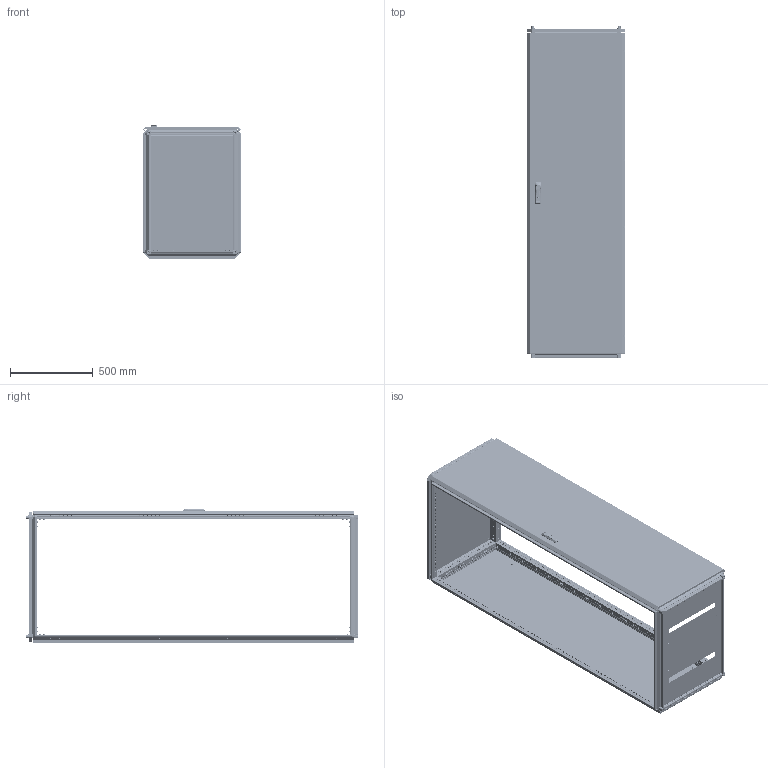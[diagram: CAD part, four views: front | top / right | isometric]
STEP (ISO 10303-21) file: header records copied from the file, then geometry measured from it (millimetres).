
FILE_DESCRIPTION (( 'STEP AP203' ), '1' );
FILE_NAME ('MA1.000.060820.10.00 AleSta2068 Øêàô AleSta 600õ800õ2000.STEP', '2024-08-23T08:26:22', ( '' ), ( '' ), 'SwSTEP 2.0', 'SolidWorks 2021', '' );
FILE_SCHEMA (( 'CONFIG_CONTROL_DESIGN' ));
Length unit declared in the file: millimetre
Products named in the file (51): Âèíò ñ âí. øåñòèãðàííèêîì M12 DIN912_•30; Óïëîòíèòåëü ïàíåëè íèæíåé_¯® ¢ëá®â¥ 600å2000; 諘蜱齁罻 022 瀁錒瀔隮; MA1.102.060620.00.01 Ïðîôèëü âåðòèêàëüíûé ñâàðíîé_04 L=1898 (‚=2000); MA1.101.060620.00.00 AleSta-RB66 Êîìïëåêò êðûøà è îñíîâàíèå_600å800; MA1.200.060620.31.00 Äâåðü ñïëîøíàÿ äëÿ øêàôîâ ALESTA ÂõØ 2000õ600_2000å600; MA1.101.060620.00.02 Ïðîôèëü ïîïåðå÷íûé ñâàðíîé_01 L=498 (˜=600); MA1.101.060620.00.02 Ïðîôèëü ïîïåðå÷íûé ñâàðíîé_02 L=698 (˜=800) ; äåðæàòåëü_êðóãëîé_òÿãèRG002-RG1010-2-i-RG1010-3-.stp; Óïëîòíèòåëü ïàíåëè íèæíåé_‚=2000; òÿãà_lg001-2.STEP_‚=2000; MA1.102.060620.00.00 AleSta-VG2000 Ñòîéêè âåðòèêàëüíûå, Â=2000ìì  (4øò)_600å800; MA1.200.060620.31.03 Ðåéêà íà äâåðü ãîðèçîíòàëüíàÿ Ø = 600_˜ = 600; ﾇﾀﾊﾋﾅﾏﾊﾀ ﾃﾀﾅﾗﾍﾀﾟ ﾘﾅﾑﾒﾈﾃﾐﾀﾍﾍﾀﾟ ﾑ ﾓﾌﾅﾍﾜﾘﾅﾍﾍﾛﾌ ﾁﾎﾐﾒﾎﾌ M4 X 11 (0.5-2.5 ﾌﾌ) HEX U-S ﾖﾈﾍﾊ; Áîëò øåñòèãðàííûé Ì5õ12 DIN 933, êëàññ ïðî÷íîñòè 8.8, îöèíêîâàííàÿ ñòàëü; MA1.200.060620.31.02 Ðåéêà íà äâåðü âåðòèêàëüíàÿ Â = 2000_‚ =2000; Ïåòëÿ íà äâåðü ï-îáðàçíàÿ; MA1.200.060620.31.05 Óãëîâîé óïîð äâåðíîé òÿãè; Øïèëüêà Ì6õ12_˜¯¨«ìª  Œ6å16; ﾘ琺矜 65ﾃ 019 ﾃﾎﾑﾒ 6402-70_12; MA1.101.060620.20.02 Çàêðûòèå íèæíåé ïàíåëè 600õ600_600x800; MA1.101.060620.10.00 Êðûøà 600x600_600å800; MS463-2-3(1); Âèíò_ðåçüáîâûäàâëèâàþùèé_Ì5õ12_DIN 7500E_00; Øïèëüêà Ì6õ12_˜¯¨«ìª  Œ6å20; Ãàéêà ñàìîêîíòðÿùàÿñÿ ñ íåéëîíîâîé âñòàâêîé Ì6 DIN 985, êëàññ ïðî÷íîñòè 8, îöèíêîâàííàÿ ñòàëü_Œ6; MA1.200.060620.10.00 AleSta-PR206  Ïàíåëü çàäíÿÿ, äëÿ øêàôîâ ALESTA, 2000 x 600_2000å600; ﾘ琺矜 01.019 ﾃﾎﾑﾒ11371-78_12; MA1.200.060620.11.00 Ïàíåëü çàäíÿÿ, äëÿ øêàôîâ AleSta, 2000x600_2000å600; Ïðîáêà ïëàñòèêîâàÿ óíèâåðñàëüíàÿ ïîä îòâåðñòèå 4,5 ìì, ñåðèÿ ST, öâåò áåñöâåòíûé – ST4,5; MA1.101.060620.10.01 Ïîëîòíî êðûøè 600õ600_600å800; MA1.101.060620.20.00 Íèæíÿÿ ïàíåëü 600õ600_600å800; MA1.101.060620.20.01 Ïîëîòíî íèæíåé ïàíåëè 600õ600_600å800; MA1.000.060820.10.00 AleSta2068 Øêàô AleSta 600õ800õ2000; Âèíò_ðåçüáîâûäàâëèâàþùèé_Ì5õ12_DIN 7500E_Œ5å12; Íàâåñêà íà êîðïóñ ïîä êëåïêó; 7380-2 ISO Âèíòû ñ ïîëóêðóãëîé ãîëîâêîé ñ ôëàíöåì ñ âíóòðåííèì øåñòèãðàííèêîì Ì4õ10; MA1.200.060620.31.01 Ïîëîòíî äâåðè ñïëîøíîé 2000õ600_‚=2000; Âèíò ñàìîíàðåçàþùèé ñ ïîòàéíîé ãîëîâêîé Ì5x14 DIN 7500 M TORX, êëàññ ïðî÷íîñòè 8.8, îöèíêîâàííàÿ ñòàëü_Œ5å12; Øïèëüêà Ì6õ12_˜¯¨«ìª  Œ6å12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
Assembly tree (337 placements, depth 4):
  Ïðîáêà ïëàñòèêîâàÿ óíèâåðñàëüíàÿ ïîä îòâåðñòèå 4,5 ìì, ñåðèÿ ST, öâåò áåñöâåòíûé – ST4,5
  MA1.000.060820.10.00 AleSta2068 Øêàô AleSta 600õ800õ2000
    MA1.101.060620.00.00 AleSta-RB66 Êîìïëåêò êðûøà è îñíîâàíèå_600å800
      MA1.101.060620.00.02 Ïðîôèëü ïîïåðå÷íûé ñâàðíîé_02 L=698 (˜=800)   x4
      MA1.101.060620.00.02 Ïðîôèëü ïîïåðå÷íûé ñâàðíîé_01 L=498 (˜=600)  x4
      MA1.101.060620.10.00 Êðûøà 600x600_600å800
        MA1.101.060620.10.01 Ïîëîòíî êðûøè 600õ600_600å800
        Øïèëüêà Ì6õ12_˜¯¨«ìª  Œ6å12  x4
        Óïëîòíèòåëü ïàíåëè íèæíåé_600å800
      MA1.101.060620.20.00 Íèæíÿÿ ïàíåëü 600õ600_600å800
        MA1.101.060620.20.01 Ïîëîòíî íèæíåé ïàíåëè 600õ600_600å800
        ﾇﾀﾊﾋﾅﾏﾊﾀ ﾃﾀﾅﾗﾍﾀﾟ ﾘﾅﾑﾒﾈﾃﾐﾀﾍﾍﾀﾟ ﾑ ﾓﾌﾅﾍﾜﾘﾅﾍﾍﾛﾌ ﾁﾎﾐﾒﾎﾌ M4 X 11 (0.5-2.5 ﾌﾌ) HEX U-S ﾖﾈﾍﾊ  x4
        MA1.101.060620.20.02 Çàêðûòèå íèæíåé ïàíåëè 600õ600_600x800  x2
        7380-2 ISO Âèíòû ñ ïîëóêðóãëîé ãîëîâêîé ñ ôëàíöåì ñ âíóòðåííèì øåñòèãðàííèêîì Ì4õ10  x4
      Âèíò_ðåçüáîâûäàâëèâàþùèé_Ì5õ12_DIN 7500E_Œ5å12  x8
      MA1.100.060620.00.01 Ñîåäèíèòåëü óãëîâîé_00  x8
      Âèíò ñ âí. øåñòèãðàííèêîì M12 DIN912_•30  x4
      Âèíò ðåçüáîâûäàâëèâàþùèé Ì6õ12 DIN 7500E_Œ6å10  x96
      ﾘ琺矜 01.019 ﾃﾎﾑﾒ11371-78_12  x4
      ﾘ琺矜 65ﾃ 019 ﾃﾎﾑﾒ 6402-70_12  x4
      Øàéáà ñòîïîðíàÿ ñ íàðóæíûìè çóáöàìè SCHNORR, òèï VS öèíêîâûå õëîïüÿ Ì6 O6,4 ART 88121_Œ6  x80
    MA1.102.060620.00.00 AleSta-VG2000 Ñòîéêè âåðòèêàëüíûå, Â=2000ìì  (4øò)_600å800
      MA1.102.060620.00.01 Ïðîôèëü âåðòèêàëüíûé ñâàðíîé_04 L=1898 (‚=2000)  x4
    MA1.200.060620.10.00 AleSta-PR206  Ïàíåëü çàäíÿÿ, äëÿ øêàôîâ ALESTA, 2000 x 600_2000å600
      MA1.200.060620.11.00 Ïàíåëü çàäíÿÿ, äëÿ øêàôîâ AleSta, 2000x600_2000å600
        MA1.200.060620.11.01 Ïîëîòíî çàäíåé ïàíåëè 2000õ600_2000å600
        Óïëîòíèòåëü ïàíåëè íèæíåé_¯® ¢ëá®â¥ 600å2000
        Øïèëüêà Ì6õ12_˜¯¨«ìª  Œ6å12  x4
      Âèíò ñàìîíàðåçàþùèé ñ ïîòàéíîé ãîëîâêîé Ì5x14 DIN 7500 M TORX, êëàññ ïðî÷íîñòè 8.8, îöèíêîâàííàÿ ñòàëü_Œ5å14  x8
    MA1.200.060620.30.00 AleSta-D20M600 Äâåðü ñïëîøíàÿ äëÿ øêàôîâ ALESTA ÂõØ 2000õ600_2000å600
      MA1.200.060620.31.00 Äâåðü ñïëîøíàÿ äëÿ øêàôîâ ALESTA ÂõØ 2000õ600_2000å600
        MA1.200.060620.31.01 Ïîëîòíî äâåðè ñïëîøíîé 2000õ600_‚=2000
        Óïëîòíèòåëü ïàíåëè íèæíåé_‚=2000
        Øïèëüêà Ì6õ12_˜¯¨«ìª  Œ6å20  x16
        Øïèëüêà Ì6õ12_˜¯¨«ìª  Œ6å16  x4
        Ïåòëÿ íà äâåðü ï-îáðàçíàÿ  x4
      MA1.200.060620.31.03 Ðåéêà íà äâåðü ãîðèçîíòàëüíàÿ Ø = 600_˜ = 600  x2
      諘蜱齁罻 022 瀁錒瀔隮  x4
      MA1.200.060620.31.02 Ðåéêà íà äâåðü âåðòèêàëüíàÿ Â = 2000_‚ =2000  x2
      äåðæàòåëü_êðóãëîé_òÿãèRG002-RG1010-2-i-RG1010-3-.stp  x2
      òÿãà_lg001-2.STEP_‚=2000  x2
      êðåïëåíèå_êðóãëîé_òÿãè_RG1020-1.stp  x2
      MS463-2-3(1)
      Ãàéêà ñàìîêîíòðÿùàÿñÿ ñ íåéëîíîâîé âñòàâêîé Ì6 DIN 985, êëàññ ïðî÷íîñòè 8, îöèíêîâàííàÿ ñòàëü_Œ6  x16
      Ãàéêà ñàìîêîíòðÿùàÿñÿ ñ íåéëîíîâîé âñòàâêîé Ì6 DIN 985, êëàññ ïðî÷íîñòè 8, îöèíêîâàííàÿ ñòàëü_Œ5  x2
      Áîëò øåñòèãðàííûé Ì5õ12 DIN 933, êëàññ ïðî÷íîñòè 8.8, îöèíêîâàííàÿ ñòàëü  x2
      MA1.200.060620.31.04 ðèãåëü çàìêà äâåðè
      MA1.200.060620.31.05 Óãëîâîé óïîð äâåðíîé òÿãè  x2
      Âèíò_ðåçüáîâûäàâëèâàþùèé_Ì5õ12_DIN 7500E_00  x2
      Íàâåñêà íà êîðïóñ ïîä êëåïêó  x4
      Îñü ïåòëè 4õ52_‚¨­â A.M4x0,5x40 ƒŽ‘’ 11644-75  x4
      Âèíò ñàìîíàðåçàþùèé ñ ïîòàéíîé ãîëîâêîé Ì5x14 DIN 7500 M TORX, êëàññ ïðî÷íîñòè 8.8, îöèíêîâàííàÿ ñòàëü_Œ5å12  x8
Bounding box: 592 x 2010.9 x 816.8 mm (x, y, z)
Volume: 9612320.7 mm3; surface area: 12322686.6 mm2
Topology: 364 solids, 378 shells, 24203 faces, 62646 edges, 39272 vertices
Faces by surface type: plane 14505, cylinder 7005, bspline 921, cone 845, torus 829, sphere 98
Entity records: 254309 total; most frequent: CARTESIAN_POINT 80779, ORIENTED_EDGE 33234, DIRECTION 32700, EDGE_CURVE 16634, AXIS2_PLACEMENT_3D 11194, VERTEX_POINT 10381, LINE 10312, VECTOR 10312
